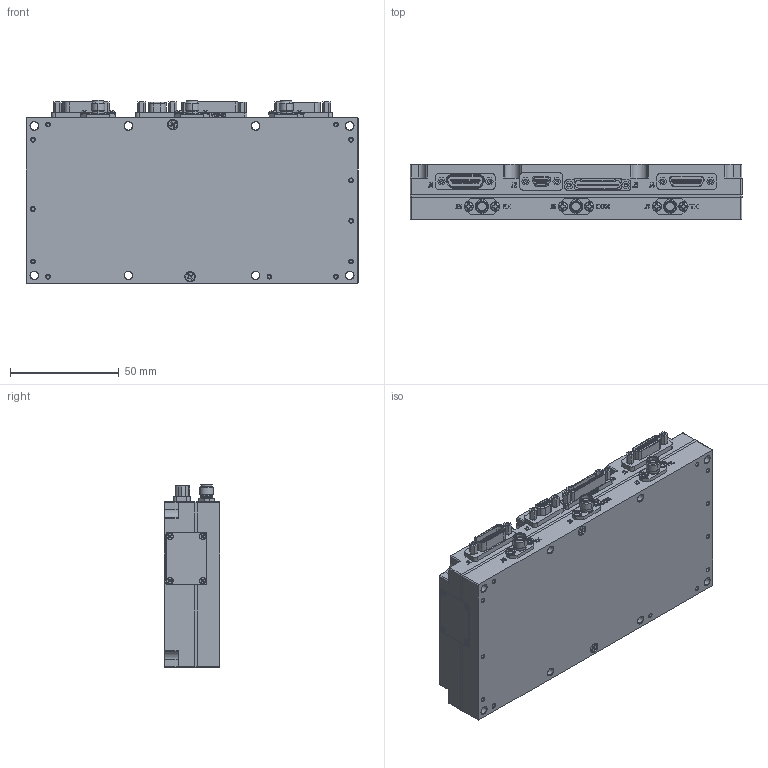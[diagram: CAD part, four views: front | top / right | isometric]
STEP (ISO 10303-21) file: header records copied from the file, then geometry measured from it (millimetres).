
FILE_DESCRIPTION (( 'STEP AP214' ), '1' );
FILE_NAME ('QS-EVTM-TDDNC_ICD_B.STEP', '2024-09-03T09:35:14', ( '' ), ( '' ), 'SwSTEP 2.0', 'SolidWorks 2023', '' );
FILE_SCHEMA (( 'AUTOMOTIVE_DESIGN' ));
Length unit declared in the file: inch
Products named in the file (1): QS-EVTM-TDDNC_ICD_B
Bounding box: 152.4 x 25.4 x 84.14 mm (x, y, z)
Volume: 142709.2 mm3; surface area: 116833.7 mm2
Topology: 59 solids, 59 shells, 3771 faces, 9446 edges, 6016 vertices
Faces by surface type: plane 1467, cylinder 1265, cone 746, bspline 137, torus 123, sphere 33
Entity records: 119831 total; most frequent: CARTESIAN_POINT 28795, DIRECTION 19076, ORIENTED_EDGE 18588, EDGE_CURVE 9294, AXIS2_PLACEMENT_3D 7248, VERTEX_POINT 5995, VECTOR 4580, LINE 4580
